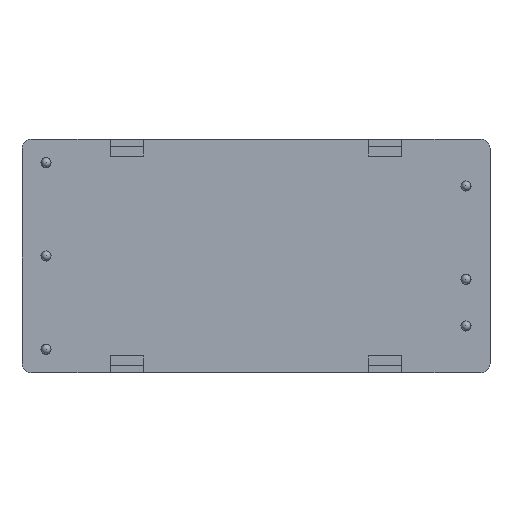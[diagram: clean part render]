
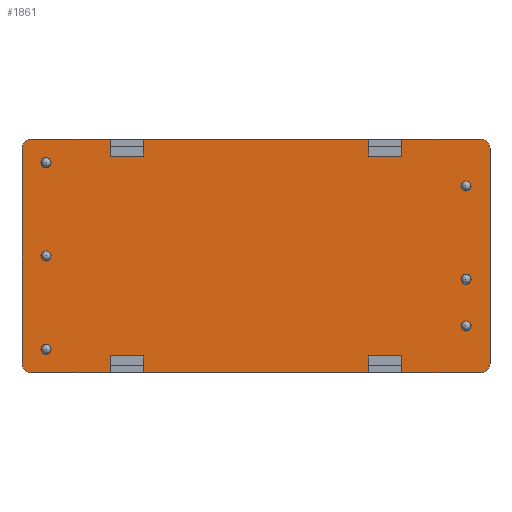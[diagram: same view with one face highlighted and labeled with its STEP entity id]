
A CAD part, top view. The second image highlights one B-rep face of the part: STEP entity #1861.
In plain terms, the highlighted planar face has unit normal (0, 0, 1).
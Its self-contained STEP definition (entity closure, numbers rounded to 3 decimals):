
#67=FACE_BOUND('',#384,.T.);
#68=FACE_BOUND('',#385,.T.);
#69=FACE_BOUND('',#386,.T.);
#70=FACE_BOUND('',#387,.T.);
#71=FACE_BOUND('',#388,.T.);
#72=FACE_BOUND('',#389,.T.);
#120=CIRCLE('',#1961,0.55);
#122=CIRCLE('',#1964,0.55);
#124=CIRCLE('',#1967,0.55);
#126=CIRCLE('',#1970,0.55);
#128=CIRCLE('',#1973,0.55);
#130=CIRCLE('',#1976,0.55);
#147=CIRCLE('',#2013,1.025);
#148=CIRCLE('',#2015,1.025);
#149=CIRCLE('',#2018,1.025);
#150=CIRCLE('',#2020,1.025);
#255=FACE_OUTER_BOUND('',#383,.T.);
#383=EDGE_LOOP('',(#1585,#1586,#1587,#1588,#1589,#1590,#1591,#1592,#1593,
#1594,#1595,#1596,#1597,#1598,#1599,#1600,#1601,#1602,#1603,#1604,#1605,
#1606,#1607,#1608));
#384=EDGE_LOOP('',(#1609));
#385=EDGE_LOOP('',(#1610));
#386=EDGE_LOOP('',(#1611));
#387=EDGE_LOOP('',(#1612));
#388=EDGE_LOOP('',(#1613));
#389=EDGE_LOOP('',(#1614));
#485=LINE('',#2748,#669);
#488=LINE('',#2753,#672);
#493=LINE('',#2762,#677);
#501=LINE('',#2780,#685);
#504=LINE('',#2785,#688);
#509=LINE('',#2794,#693);
#517=LINE('',#2811,#701);
#521=LINE('',#2819,#705);
#524=LINE('',#2824,#708);
#533=LINE('',#2843,#717);
#538=LINE('',#2853,#722);
#542=LINE('',#2859,#726);
#545=LINE('',#2865,#729);
#546=LINE('',#2868,#730);
#550=LINE('',#2874,#734);
#553=LINE('',#2880,#737);
#554=LINE('',#2883,#738);
#558=LINE('',#2889,#742);
#593=LINE('',#3035,#777);
#597=LINE('',#3046,#781);
#669=VECTOR('',#2185,3.6);
#672=VECTOR('',#2190,1.85);
#677=VECTOR('',#2197,1.85);
#685=VECTOR('',#2209,3.6);
#688=VECTOR('',#2214,1.85);
#693=VECTOR('',#2221,1.85);
#701=VECTOR('',#2233,1.85);
#705=VECTOR('',#2239,3.6);
#708=VECTOR('',#2244,1.85);
#717=VECTOR('',#2257,1.85);
#722=VECTOR('',#2264,1.85);
#726=VECTOR('',#2270,3.6);
#729=VECTOR('',#2275,8.6);
#730=VECTOR('',#2278,8.6);
#734=VECTOR('',#2284,24.5);
#737=VECTOR('',#2289,8.6);
#738=VECTOR('',#2292,8.6);
#742=VECTOR('',#2298,24.5);
#777=VECTOR('',#2463,23.4);
#781=VECTOR('',#2477,23.4);
#837=VERTEX_POINT('',#2745);
#838=VERTEX_POINT('',#2747);
#839=VERTEX_POINT('',#2752);
#842=VERTEX_POINT('',#2760);
#849=VERTEX_POINT('',#2777);
#850=VERTEX_POINT('',#2779);
#851=VERTEX_POINT('',#2784);
#854=VERTEX_POINT('',#2792);
#860=VERTEX_POINT('',#2808);
#861=VERTEX_POINT('',#2810);
#864=VERTEX_POINT('',#2818);
#865=VERTEX_POINT('',#2823);
#872=VERTEX_POINT('',#2840);
#873=VERTEX_POINT('',#2842);
#876=VERTEX_POINT('',#2850);
#877=VERTEX_POINT('',#2852);
#880=VERTEX_POINT('',#2863);
#881=VERTEX_POINT('',#2867);
#884=VERTEX_POINT('',#2878);
#885=VERTEX_POINT('',#2882);
#900=VERTEX_POINT('',#2927);
#902=VERTEX_POINT('',#2932);
#904=VERTEX_POINT('',#2937);
#906=VERTEX_POINT('',#2942);
#908=VERTEX_POINT('',#2947);
#910=VERTEX_POINT('',#2952);
#931=VERTEX_POINT('',#3033);
#932=VERTEX_POINT('',#3034);
#933=VERTEX_POINT('',#3041);
#934=VERTEX_POINT('',#3045);
#1017=EDGE_CURVE('',#838,#837,#485,.T.);
#1020=EDGE_CURVE('',#839,#838,#488,.T.);
#1025=EDGE_CURVE('',#837,#842,#493,.T.);
#1033=EDGE_CURVE('',#850,#849,#501,.T.);
#1036=EDGE_CURVE('',#851,#850,#504,.T.);
#1041=EDGE_CURVE('',#849,#854,#509,.T.);
#1049=EDGE_CURVE('',#861,#860,#517,.T.);
#1053=EDGE_CURVE('',#864,#861,#521,.T.);
#1056=EDGE_CURVE('',#865,#864,#524,.T.);
#1065=EDGE_CURVE('',#873,#872,#533,.T.);
#1070=EDGE_CURVE('',#877,#876,#538,.T.);
#1074=EDGE_CURVE('',#872,#877,#542,.T.);
#1077=EDGE_CURVE('',#880,#854,#545,.T.);
#1078=EDGE_CURVE('',#839,#881,#546,.T.);
#1082=EDGE_CURVE('',#851,#842,#550,.T.);
#1085=EDGE_CURVE('',#884,#876,#553,.T.);
#1086=EDGE_CURVE('',#865,#885,#554,.T.);
#1090=EDGE_CURVE('',#873,#860,#558,.T.);
#1110=EDGE_CURVE('',#900,#900,#120,.T.);
#1112=EDGE_CURVE('',#902,#902,#122,.T.);
#1114=EDGE_CURVE('',#904,#904,#124,.T.);
#1116=EDGE_CURVE('',#906,#906,#126,.T.);
#1118=EDGE_CURVE('',#908,#908,#128,.T.);
#1120=EDGE_CURVE('',#910,#910,#130,.T.);
#1161=EDGE_CURVE('',#931,#932,#593,.T.);
#1164=EDGE_CURVE('',#932,#880,#147,.T.);
#1165=EDGE_CURVE('',#881,#933,#148,.T.);
#1167=EDGE_CURVE('',#933,#934,#597,.T.);
#1169=EDGE_CURVE('',#934,#884,#149,.T.);
#1170=EDGE_CURVE('',#885,#931,#150,.T.);
#1585=ORIENTED_EDGE('',*,*,#1025,.T.);
#1586=ORIENTED_EDGE('',*,*,#1082,.F.);
#1587=ORIENTED_EDGE('',*,*,#1036,.T.);
#1588=ORIENTED_EDGE('',*,*,#1033,.T.);
#1589=ORIENTED_EDGE('',*,*,#1041,.T.);
#1590=ORIENTED_EDGE('',*,*,#1077,.F.);
#1591=ORIENTED_EDGE('',*,*,#1164,.F.);
#1592=ORIENTED_EDGE('',*,*,#1161,.F.);
#1593=ORIENTED_EDGE('',*,*,#1170,.F.);
#1594=ORIENTED_EDGE('',*,*,#1086,.F.);
#1595=ORIENTED_EDGE('',*,*,#1056,.T.);
#1596=ORIENTED_EDGE('',*,*,#1053,.T.);
#1597=ORIENTED_EDGE('',*,*,#1049,.T.);
#1598=ORIENTED_EDGE('',*,*,#1090,.F.);
#1599=ORIENTED_EDGE('',*,*,#1065,.T.);
#1600=ORIENTED_EDGE('',*,*,#1074,.T.);
#1601=ORIENTED_EDGE('',*,*,#1070,.T.);
#1602=ORIENTED_EDGE('',*,*,#1085,.F.);
#1603=ORIENTED_EDGE('',*,*,#1169,.F.);
#1604=ORIENTED_EDGE('',*,*,#1167,.F.);
#1605=ORIENTED_EDGE('',*,*,#1165,.F.);
#1606=ORIENTED_EDGE('',*,*,#1078,.F.);
#1607=ORIENTED_EDGE('',*,*,#1020,.T.);
#1608=ORIENTED_EDGE('',*,*,#1017,.T.);
#1609=ORIENTED_EDGE('',*,*,#1110,.T.);
#1610=ORIENTED_EDGE('',*,*,#1112,.T.);
#1611=ORIENTED_EDGE('',*,*,#1114,.T.);
#1612=ORIENTED_EDGE('',*,*,#1116,.T.);
#1613=ORIENTED_EDGE('',*,*,#1118,.T.);
#1614=ORIENTED_EDGE('',*,*,#1120,.T.);
#1773=PLANE('',#2021);
#1861=ADVANCED_FACE('',(#255,#67,#68,#69,#70,#71,#72),#1773,.T.);
#1961=AXIS2_PLACEMENT_3D('',#2928,#2337,#2338);
#1964=AXIS2_PLACEMENT_3D('',#2933,#2343,#2344);
#1967=AXIS2_PLACEMENT_3D('',#2938,#2349,#2350);
#1970=AXIS2_PLACEMENT_3D('',#2943,#2355,#2356);
#1973=AXIS2_PLACEMENT_3D('',#2948,#2361,#2362);
#1976=AXIS2_PLACEMENT_3D('',#2953,#2367,#2368);
#2013=AXIS2_PLACEMENT_3D('',#3039,#2468,#2469);
#2015=AXIS2_PLACEMENT_3D('',#3042,#2472,#2473);
#2018=AXIS2_PLACEMENT_3D('',#3049,#2481,#2482);
#2020=AXIS2_PLACEMENT_3D('',#3051,#2485,#2486);
#2021=AXIS2_PLACEMENT_3D('',#3052,#2487,#2488);
#2185=DIRECTION('',(1.,0.,0.));
#2190=DIRECTION('',(0.,1.,0.));
#2197=DIRECTION('',(0.,-1.,0.));
#2209=DIRECTION('',(1.,0.,0.));
#2214=DIRECTION('',(0.,1.,0.));
#2221=DIRECTION('',(0.,-1.,0.));
#2233=DIRECTION('',(0.,1.,0.));
#2239=DIRECTION('',(-1.,0.,0.));
#2244=DIRECTION('',(0.,-1.,0.));
#2257=DIRECTION('',(0.,-1.,0.));
#2264=DIRECTION('',(0.,1.,0.));
#2270=DIRECTION('',(-1.,0.,0.));
#2275=DIRECTION('',(-1.,0.,0.));
#2278=DIRECTION('',(-1.,0.,0.));
#2284=DIRECTION('',(-1.,0.,0.));
#2289=DIRECTION('',(1.,0.,0.));
#2292=DIRECTION('',(1.,0.,0.));
#2298=DIRECTION('',(1.,0.,0.));
#2337=DIRECTION('center_axis',(0.,0.,
-1.));
#2338=DIRECTION('ref_axis',(-1.,0.,0.));
#2343=DIRECTION('center_axis',(0.,0.,
-1.));
#2344=DIRECTION('ref_axis',(-1.,0.,0.));
#2349=DIRECTION('center_axis',(0.,0.,
-1.));
#2350=DIRECTION('ref_axis',(-1.,0.,0.));
#2355=DIRECTION('center_axis',(0.,0.,
-1.));
#2356=DIRECTION('ref_axis',(-1.,0.,0.));
#2361=DIRECTION('center_axis',(0.,0.,
-1.));
#2362=DIRECTION('ref_axis',(-1.,0.,0.));
#2367=DIRECTION('center_axis',(0.,0.,
-1.));
#2368=DIRECTION('ref_axis',(-1.,0.,0.));
#2463=DIRECTION('',(0.,-1.,0.));
#2468=DIRECTION('center_axis',(0.,0.,-1.));
#2469=DIRECTION('ref_axis',(0.,1.,0.));
#2472=DIRECTION('center_axis',(0.,0.,-1.));
#2473=DIRECTION('ref_axis',(1.,0.,0.));
#2477=DIRECTION('',(0.,1.,0.));
#2481=DIRECTION('center_axis',(0.,0.,-1.));
#2482=DIRECTION('ref_axis',(0.,-1.,0.));
#2485=DIRECTION('center_axis',(0.,0.,-1.));
#2486=DIRECTION('ref_axis',(-1.,0.,0.));
#2487=DIRECTION('center_axis',(0.,0.,
1.));
#2488=DIRECTION('ref_axis',(1.,0.,0.));
#2745=CARTESIAN_POINT('',(-12.25,-10.875,10.3));
#2747=CARTESIAN_POINT('',(-15.85,-10.875,10.3));
#2748=CARTESIAN_POINT('',(-6.125,-10.875,10.3));
#2752=CARTESIAN_POINT('',(-15.85,-12.725,10.3));
#2753=CARTESIAN_POINT('',(-15.85,-5.438,10.3));
#2760=CARTESIAN_POINT('',(-12.25,-12.725,10.3));
#2762=CARTESIAN_POINT('',(-12.25,-6.363,10.3));
#2777=CARTESIAN_POINT('',(15.85,-10.875,10.3));
#2779=CARTESIAN_POINT('',(12.25,-10.875,10.3));
#2780=CARTESIAN_POINT('',(7.925,-10.875,10.3));
#2784=CARTESIAN_POINT('',(12.25,-12.725,10.3));
#2785=CARTESIAN_POINT('',(12.25,-5.438,10.3));
#2792=CARTESIAN_POINT('',(15.85,-12.725,10.3));
#2794=CARTESIAN_POINT('',(15.85,-6.363,10.3));
#2808=CARTESIAN_POINT('',(12.25,12.725,10.3));
#2810=CARTESIAN_POINT('',(12.25,10.875,10.3));
#2811=CARTESIAN_POINT('',(12.25,6.363,10.3));
#2818=CARTESIAN_POINT('',(15.85,10.875,10.3));
#2819=CARTESIAN_POINT('',(6.125,10.875,10.3));
#2823=CARTESIAN_POINT('',(15.85,12.725,10.3));
#2824=CARTESIAN_POINT('',(15.85,5.438,10.3));
#2840=CARTESIAN_POINT('',(-12.25,10.875,10.3));
#2842=CARTESIAN_POINT('',(-12.25,12.725,10.3));
#2843=CARTESIAN_POINT('',(-12.25,5.438,10.3));
#2850=CARTESIAN_POINT('',(-15.85,12.725,10.3));
#2852=CARTESIAN_POINT('',(-15.85,10.875,10.3));
#2853=CARTESIAN_POINT('',(-15.85,6.363,10.3));
#2859=CARTESIAN_POINT('',(-7.925,10.875,10.3));
#2863=CARTESIAN_POINT('',(24.45,-12.725,10.3));
#2865=CARTESIAN_POINT('',(24.45,-12.725,10.3));
#2867=CARTESIAN_POINT('',(-24.45,-12.725,10.3));
#2868=CARTESIAN_POINT('',(24.45,-12.725,10.3));
#2874=CARTESIAN_POINT('',(24.45,-12.725,10.3));
#2878=CARTESIAN_POINT('',(-24.45,12.725,10.3));
#2880=CARTESIAN_POINT('',(-24.45,12.725,10.3));
#2882=CARTESIAN_POINT('',(24.45,12.725,10.3));
#2883=CARTESIAN_POINT('',(-24.45,12.725,10.3));
#2889=CARTESIAN_POINT('',(-24.45,12.725,10.3));
#2927=CARTESIAN_POINT('',(-22.31,0.,10.3));
#2928=CARTESIAN_POINT('Origin',(-22.86,0.,10.3));
#2932=CARTESIAN_POINT('',(23.41,-7.62,10.3));
#2933=CARTESIAN_POINT('Origin',(22.86,-7.62,10.3));
#2937=CARTESIAN_POINT('',(23.41,7.62,10.3));
#2938=CARTESIAN_POINT('Origin',(22.86,7.62,10.3));
#2942=CARTESIAN_POINT('',(23.41,-2.54,10.3));
#2943=CARTESIAN_POINT('Origin',(22.86,-2.54,10.3));
#2947=CARTESIAN_POINT('',(-22.31,10.16,10.3));
#2948=CARTESIAN_POINT('Origin',(-22.86,10.16,10.3));
#2952=CARTESIAN_POINT('',(-22.31,-10.16,10.3));
#2953=CARTESIAN_POINT('Origin',(-22.86,-10.16,10.3));
#3033=CARTESIAN_POINT('',(25.475,11.7,10.3));
#3034=CARTESIAN_POINT('',(25.475,-11.7,10.3));
#3035=CARTESIAN_POINT('',(25.475,11.7,10.3));
#3039=CARTESIAN_POINT('Origin',(24.45,-11.7,10.3));
#3041=CARTESIAN_POINT('',(-25.475,-11.7,10.3));
#3042=CARTESIAN_POINT('Origin',(-24.45,-11.7,10.3));
#3045=CARTESIAN_POINT('',(-25.475,11.7,10.3));
#3046=CARTESIAN_POINT('',(-25.475,-11.7,10.3));
#3049=CARTESIAN_POINT('Origin',(-24.45,11.7,10.3));
#3051=CARTESIAN_POINT('Origin',(24.45,11.7,10.3));
#3052=CARTESIAN_POINT('Origin',(0.,0.,10.3));
